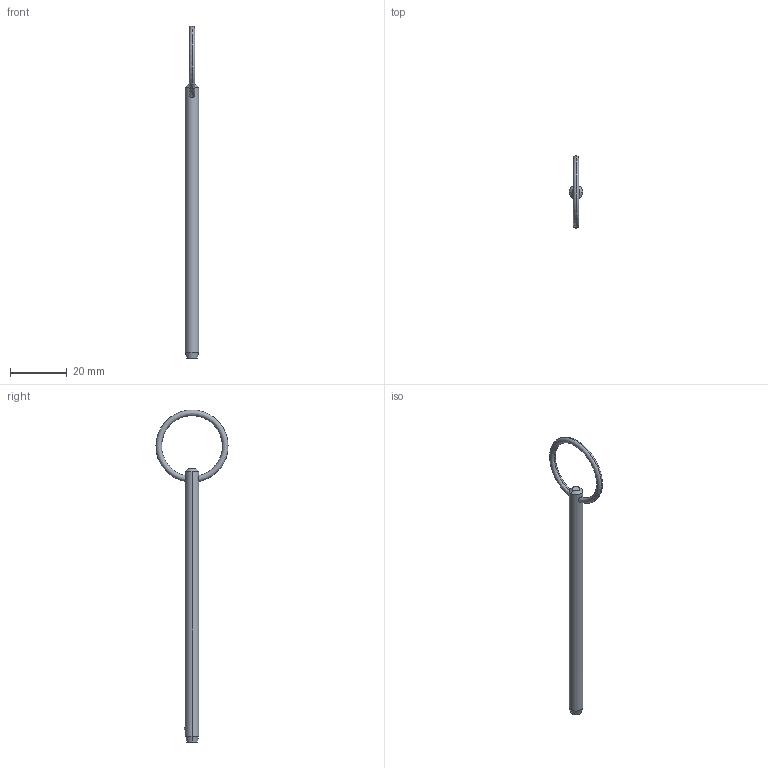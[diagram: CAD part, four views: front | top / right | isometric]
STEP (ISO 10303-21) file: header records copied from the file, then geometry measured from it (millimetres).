
FILE_DESCRIPTION (( 'STEP AP203' ), '1' );
FILE_NAME ('P1250.018-340.step', '2019-07-29T19:36:24', ( '' ), ( '' ), 'SwSTEP 2.0', 'SolidWorks 2017', '' );
FILE_SCHEMA (( 'CONFIG_CONTROL_DESIGN' ));
Length unit declared in the file: millimetre
Products named in the file (1): P1250.018-340
Bounding box: 4.76 x 25.4 x 116.88 mm (x, y, z)
Volume: 1914.8 mm3; surface area: 1882.1 mm2
Topology: 1 solids, 1 shells, 12 faces, 28 edges, 17 vertices
Faces by surface type: cone 4, torus 2, sphere 2, cylinder 2, plane 2
Entity records: 471 total; most frequent: CARTESIAN_POINT 138, DIRECTION 56, ORIENTED_EDGE 48, AXIS2_PLACEMENT_3D 25, EDGE_CURVE 24, EDGE_LOOP 15, VERTEX_POINT 15, FACE_OUTER_BOUND 12
